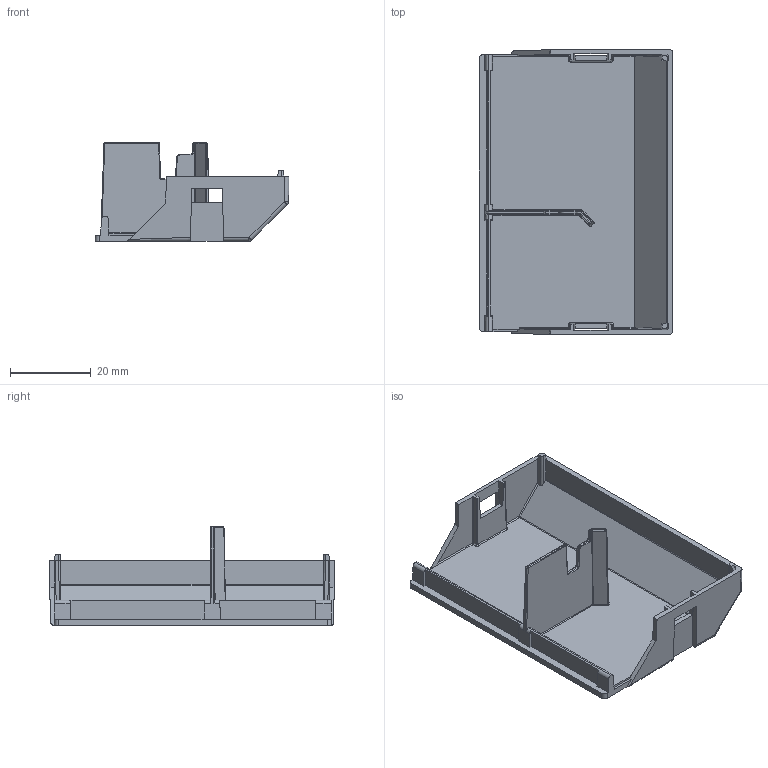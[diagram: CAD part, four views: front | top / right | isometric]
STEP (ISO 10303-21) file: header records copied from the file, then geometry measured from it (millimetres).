
FILE_DESCRIPTION (( 'STEP AP203' ), '1' );
FILE_NAME ('148130.STEP', '2015-09-23T08:06:03', ( '' ), ( '' ), 'SwSTEP 2.0', 'SolidWorks 2014', '' );
FILE_SCHEMA (( 'CONFIG_CONTROL_DESIGN' ));
Length unit declared in the file: millimetre
Products named in the file (1): 148130
Bounding box: 47.93 x 70.5 x 24.4 mm (x, y, z)
Volume: 8909.2 mm3; surface area: 11769.6 mm2
Topology: 1 solids, 1 shells, 303 faces, 755 edges, 457 vertices
Faces by surface type: plane 130, cylinder 122, bspline 49, cone 2
Entity records: 9983 total; most frequent: CARTESIAN_POINT 3228, ORIENTED_EDGE 1508, DIRECTION 1240, EDGE_CURVE 754, VECTOR 472, LINE 472, VERTEX_POINT 457, AXIS2_PLACEMENT_3D 384
